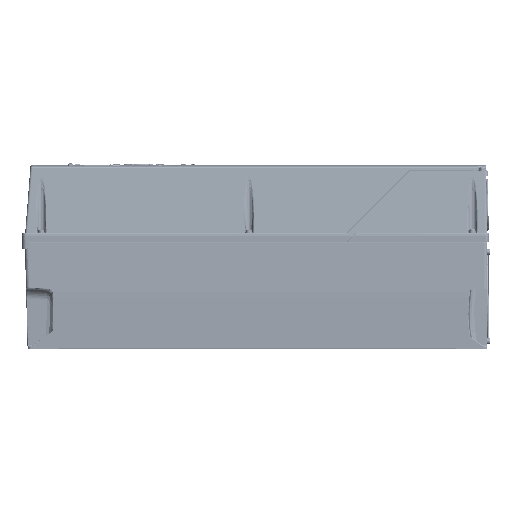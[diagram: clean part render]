
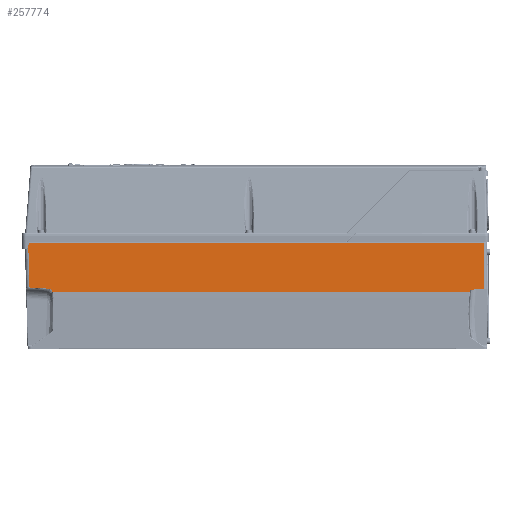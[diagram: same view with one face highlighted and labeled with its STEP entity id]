
A CAD part, left-side view. The second image highlights one B-rep face of the part: STEP entity #257774.
In plain terms, the highlighted planar face has unit normal (-1, 0, 0.024).
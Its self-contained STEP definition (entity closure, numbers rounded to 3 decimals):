
#21792=CARTESIAN_POINT('',(-119.098,318.091,
-2.488));
#65625=CARTESIAN_POINT('',(-120.686,-298.655,
-67.489));
#65632=CARTESIAN_POINT('',(-120.75,-297.88,
-70.105));
#65939=DIRECTION('',(0.001,0.998,0.061));
#65940=VECTOR('',#65939,25.514);
#65941=CARTESIAN_POINT('',(-120.645,291.007,
-65.824));
#65942=LINE('',#65941,#65940);
#65943=DIRECTION('',(0.024,0.026,0.999));
#65944=VECTOR('',#65943,61.818);
#65945=CARTESIAN_POINT('',(-120.607,316.473,
-64.266));
#65946=LINE('',#65945,#65944);
#65947=DIRECTION('',(0.,1.,0.));
#65948=VECTOR('',#65947,636.291);
#65949=CARTESIAN_POINT('',(-119.098,-318.2,
-2.488));
#65950=LINE('',#65949,#65948);
#65951=DIRECTION('',(-0.024,0.,-1.));
#65952=VECTOR('',#65951,63.825);
#65953=CARTESIAN_POINT('',(-119.098,-318.2,
-2.488));
#65954=LINE('',#65953,#65952);
#65955=CARTESIAN_POINT('',(-120.75,-297.88,
-70.105));
#65956=CARTESIAN_POINT('',(-120.75,-297.9,
-70.096));
#65957=CARTESIAN_POINT('',(-120.749,-297.936,
-70.069));
#65958=CARTESIAN_POINT('',(-120.747,-297.977,
-69.985));
#65959=CARTESIAN_POINT('',(-120.745,-298.011,
-69.906));
#65960=CARTESIAN_POINT('',(-120.743,-298.044,
-69.818));
#65961=CARTESIAN_POINT('',(-120.741,-298.077,
-69.725));
#65962=CARTESIAN_POINT('',(-120.738,-298.11,
-69.622));
#65963=CARTESIAN_POINT('',(-120.735,-298.145,
-69.508));
#65964=CARTESIAN_POINT('',(-120.732,-298.182,
-69.381));
#65965=CARTESIAN_POINT('',(-120.729,-298.221,
-69.242));
#65966=CARTESIAN_POINT('',(-120.725,-298.262,
-69.091));
#65967=CARTESIAN_POINT('',(-120.721,-298.304,
-68.931));
#65968=CARTESIAN_POINT('',(-120.717,-298.348,
-68.762));
#65969=CARTESIAN_POINT('',(-120.713,-298.392,
-68.587));
#65970=CARTESIAN_POINT('',(-120.708,-298.436,
-68.407));
#65971=CARTESIAN_POINT('',(-120.704,-298.481,
-68.223));
#65972=CARTESIAN_POINT('',(-120.699,-298.526,
-68.038));
#65973=CARTESIAN_POINT('',(-120.695,-298.57,
-67.853));
#65974=CARTESIAN_POINT('',(-120.69,-298.613,
-67.669));
#65975=CARTESIAN_POINT('',(-120.688,-298.641,
-67.549));
#65976=CARTESIAN_POINT('',(-120.686,-298.655,
-67.489));
#65978=DIRECTION('',(0.,1.,0.));
#65979=VECTOR('',#65978,582.019);
#65980=CARTESIAN_POINT('',(-120.75,-297.88,
-70.105));
#65981=LINE('',#65980,#65979);
#65982=CARTESIAN_POINT('',(-120.75,284.139,
-70.107));
#65983=CARTESIAN_POINT('',(-120.735,284.492,
-69.488));
#65984=CARTESIAN_POINT('',(-120.708,285.316,
-68.372));
#65985=CARTESIAN_POINT('',(-120.675,286.976,
-67.022));
#65986=CARTESIAN_POINT('',(-120.653,288.916,
-66.128));
#65987=CARTESIAN_POINT('',(-120.646,290.29,
-65.868));
#65988=CARTESIAN_POINT('',(-120.645,291.007,
-65.824));
#66004=DIRECTION('',(0.001,-0.998,0.061));
#66005=VECTOR('',#66004,19.582);
#66006=CARTESIAN_POINT('',(-120.686,-298.655,
-67.489));
#66007=LINE('',#66006,#66005);
#66012=CARTESIAN_POINT('',(-120.657,-318.2,-66.294));
#94406=VERTEX_POINT('',#21792);
#94408=CARTESIAN_POINT('',(-119.098,-318.2,
-2.488));
#94409=VERTEX_POINT('',#94408);
#94918=VERTEX_POINT('',#65632);
#95018=CARTESIAN_POINT('',(-120.645,291.007,
-65.824));
#95019=CARTESIAN_POINT('',(-120.607,316.473,
-64.266));
#95020=VERTEX_POINT('',#95018);
#95021=VERTEX_POINT('',#95019);
#95073=VERTEX_POINT('',#65625);
#100127=VERTEX_POINT('',#66012);
#100135=VERTEX_POINT('',#65982);
#257757=CARTESIAN_POINT('',(-120.75,-323.,-70.105));
#257758=DIRECTION('',(-1.,0.,0.024));
#257759=DIRECTION('',(0.024,0.,1.));
#257760=AXIS2_PLACEMENT_3D('',#257757,#257758,#257759);
#257761=PLANE('',#257760);
#257762=ORIENTED_EDGE('',*,*,#140006,.T.);
#257763=ORIENTED_EDGE('',*,*,#140094,.T.);
#257764=ORIENTED_EDGE('',*,*,#140156,.F.);
#257766=ORIENTED_EDGE('',*,*,#257765,.T.);
#257768=ORIENTED_EDGE('',*,*,#257767,.F.);
#257769=ORIENTED_EDGE('',*,*,#256827,.F.);
#257770=ORIENTED_EDGE('',*,*,#256845,.T.);
#257771=ORIENTED_EDGE('',*,*,#257749,.T.);
#257772=EDGE_LOOP('',(#257762,#257763,#257764,#257766,#257768,#257769,#257770,
#257771));
#257773=FACE_OUTER_BOUND('',#257772,.F.);
#65977=B_SPLINE_CURVE_WITH_KNOTS('',3,(#65955,#65956,#65957,#65958,#65959,
#65960,#65961,#65962,#65963,#65964,#65965,#65966,#65967,#65968,#65969,#65970,
#65971,#65972,#65973,#65974,#65975,#65976),.UNSPECIFIED.,.F.,.F.,(4,1,1,1,1,1,1,
1,1,1,1,1,1,1,1,1,1,1,1,4),(0.,0.053,0.105,
0.158,0.211,0.263,0.316,
0.368,0.421,0.474,0.526,
0.579,0.632,0.684,0.737,
0.789,0.842,0.895,0.947,1.),
.UNSPECIFIED.);
#65989=B_SPLINE_CURVE_WITH_KNOTS('',3,(#65982,#65983,#65984,#65985,#65986,
#65987,#65988),.UNSPECIFIED.,.F.,.F.,(4,1,1,1,4),(0.,0.25,0.5,0.75,
1.),.UNSPECIFIED.);
#140006=EDGE_CURVE('',#95020,#95021,#65942,.T.);
#140094=EDGE_CURVE('',#95021,#94406,#65946,.T.);
#140156=EDGE_CURVE('',#94409,#94406,#65950,.T.);
#256827=EDGE_CURVE('',#94918,#95073,#65977,.T.);
#256845=EDGE_CURVE('',#94918,#100135,#65981,.T.);
#257749=EDGE_CURVE('',#100135,#95020,#65989,.T.);
#257765=EDGE_CURVE('',#94409,#100127,#65954,.T.);
#257767=EDGE_CURVE('',#95073,#100127,#66007,.T.);
#257774=ADVANCED_FACE('',(#257773),#257761,.T.);
